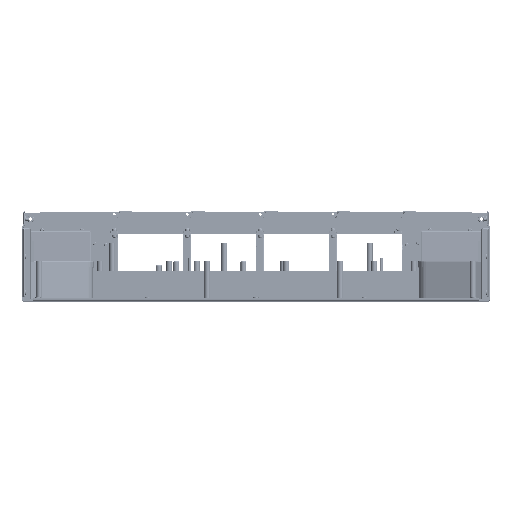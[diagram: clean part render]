
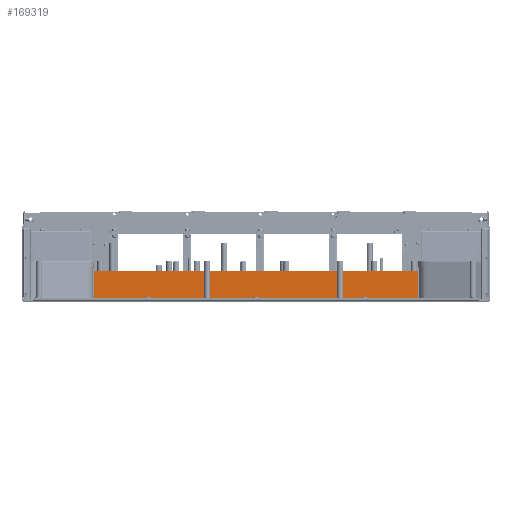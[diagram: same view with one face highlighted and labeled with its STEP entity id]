
A CAD part, top view. The second image highlights one B-rep face of the part: STEP entity #169319.
In plain terms, the highlighted planar face has unit normal (0, 0, 1).
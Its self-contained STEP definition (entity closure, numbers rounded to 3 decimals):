
#169011=CARTESIAN_POINT('',(-151.7,27.5,-294.9));
#169012=DIRECTION('',(0.,0.,1.));
#169013=DIRECTION('',(0.,1.,0.));
#169014=AXIS2_PLACEMENT_3D('',#169011,#169012,#169013);
#169016=DIRECTION('',(1.,0.,0.));
#169017=VECTOR('',#169016,303.4);
#169018=CARTESIAN_POINT('',(-151.7,28.5,-294.9));
#169019=LINE('',#169018,#169017);
#169020=CARTESIAN_POINT('',(151.7,27.5,-294.9));
#169021=DIRECTION('',(0.,0.,1.));
#169022=DIRECTION('',(1.,0.,0.));
#169023=AXIS2_PLACEMENT_3D('',#169020,#169021,#169022);
#169025=DIRECTION('',(0.,-1.,0.));
#169026=VECTOR('',#169025,25.9);
#169027=CARTESIAN_POINT('',(152.7,27.5,-294.9));
#169028=LINE('',#169027,#169026);
#169029=DIRECTION('',(-1.,0.,0.));
#169030=VECTOR('',#169029,305.4);
#169031=CARTESIAN_POINT('',(152.7,1.6,-294.9));
#169032=LINE('',#169031,#169030);
#169033=DIRECTION('',(0.,1.,0.));
#169034=VECTOR('',#169033,25.9);
#169035=CARTESIAN_POINT('',(-152.7,1.6,-294.9));
#169036=LINE('',#169035,#169034);
#169049=CARTESIAN_POINT('',(152.7,1.6,-294.9));
#169050=CARTESIAN_POINT('',(-152.7,1.6,-294.9));
#169051=VERTEX_POINT('',#169049);
#169052=VERTEX_POINT('',#169050);
#169057=CARTESIAN_POINT('',(-151.7,28.5,-294.9));
#169058=VERTEX_POINT('',#169057);
#169059=CARTESIAN_POINT('',(-152.7,27.5,-294.9));
#169060=VERTEX_POINT('',#169059);
#169081=CARTESIAN_POINT('',(152.7,27.5,-294.9));
#169082=VERTEX_POINT('',#169081);
#169083=CARTESIAN_POINT('',(151.7,28.5,-294.9));
#169084=VERTEX_POINT('',#169083);
#169305=CARTESIAN_POINT('',(-152.7,1.,-294.9));
#169306=DIRECTION('',(0.,0.,-1.));
#169307=DIRECTION('',(-1.,0.,0.));
#169308=AXIS2_PLACEMENT_3D('',#169305,#169306,#169307);
#169309=PLANE('',#169308);
#169310=ORIENTED_EDGE('',*,*,#169188,.F.);
#169311=ORIENTED_EDGE('',*,*,#169204,.T.);
#169312=ORIENTED_EDGE('',*,*,#169217,.F.);
#169313=ORIENTED_EDGE('',*,*,#169232,.T.);
#169314=ORIENTED_EDGE('',*,*,#169297,.T.);
#169316=ORIENTED_EDGE('',*,*,#169315,.T.);
#169317=EDGE_LOOP('',(#169310,#169311,#169312,#169313,#169314,#169316));
#169318=FACE_OUTER_BOUND('',#169317,.F.);
#169015=CIRCLE('',#169014,1.);
#169024=CIRCLE('',#169023,1.);
#169188=EDGE_CURVE('',#169058,#169060,#169015,.T.);
#169204=EDGE_CURVE('',#169058,#169084,#169019,.T.);
#169217=EDGE_CURVE('',#169082,#169084,#169024,.T.);
#169232=EDGE_CURVE('',#169082,#169051,#169028,.T.);
#169297=EDGE_CURVE('',#169051,#169052,#169032,.T.);
#169315=EDGE_CURVE('',#169052,#169060,#169036,.T.);
#169319=ADVANCED_FACE('',(#169318),#169309,.F.);
